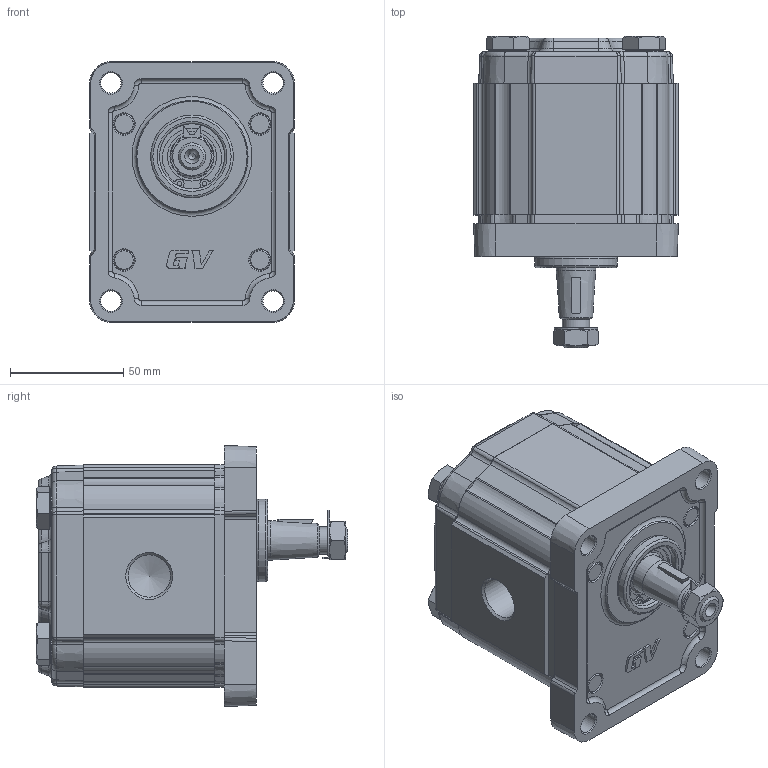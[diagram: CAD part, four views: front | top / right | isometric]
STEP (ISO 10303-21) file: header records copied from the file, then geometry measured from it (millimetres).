
FILE_DESCRIPTION(/* description */ ('Unknown'),/* implementation_level */ '2;1');
FILE_NAME(/* name */ 'G2P4702EBBA',/* time_stamp */ '2026-06-03T17:54:23+02:00',/* author */ ('Unknown'),/* organization */ ('Unknown'),/* preprocessor_version */ 'ST-DEVELOPER v16.7',/* originating_system */ 'Solid Edge',/* authorisation */ 'Unknown');
FILE_SCHEMA (('AUTOMOTIVE_DESIGN {1 0 10303 214 3 1 1}'));
Length unit declared in the file: millimetre
Products named in the file (5): G2P4702EBBA; G2P02; 2E; G2BBH58; GP201-A
Assembly tree (4 placements, depth 2):
  G2P4702EBBA
    G2P02
    2E
    G2BBH58
    GP201-A
Bounding box: 90.29 x 137.55 x 115.1 mm (x, y, z)
Volume: 746592.9 mm3; surface area: 100075.5 mm2
Topology: 4 solids, 5 shells, 948 faces, 3239 edges, 2039 vertices
Faces by surface type: cylinder 375, plane 340, cone 120, torus 57, bspline 56
Full cylindrical faces by diameter (mm): 2 x2, 4 x2, 9 x4, 9.9 x4, 10 x4, 10.5 x4, 12 x2, 12.5 x1, 15 x4, 15.8 x4, 16 x4, 17.42 x1, 17.48 x2, 18 x4, 18.631 x1, 18.724 x1, 19 x2, 20.595 x1, 21.741 x1, 25 x1, 25.834 x1, 28.56 x1, 28.57 x1, 28.8 x1, 30.5 x1, 36.5 x1
Entity records: 47382 total; most frequent: CARTESIAN_POINT 13058, ORIENTED_EDGE 6174, DIRECTION 5487, EDGE_CURVE 3087, AXIS2_PLACEMENT_3D 2089, VERTEX_POINT 2004, LINE 1309, VECTOR 1309
